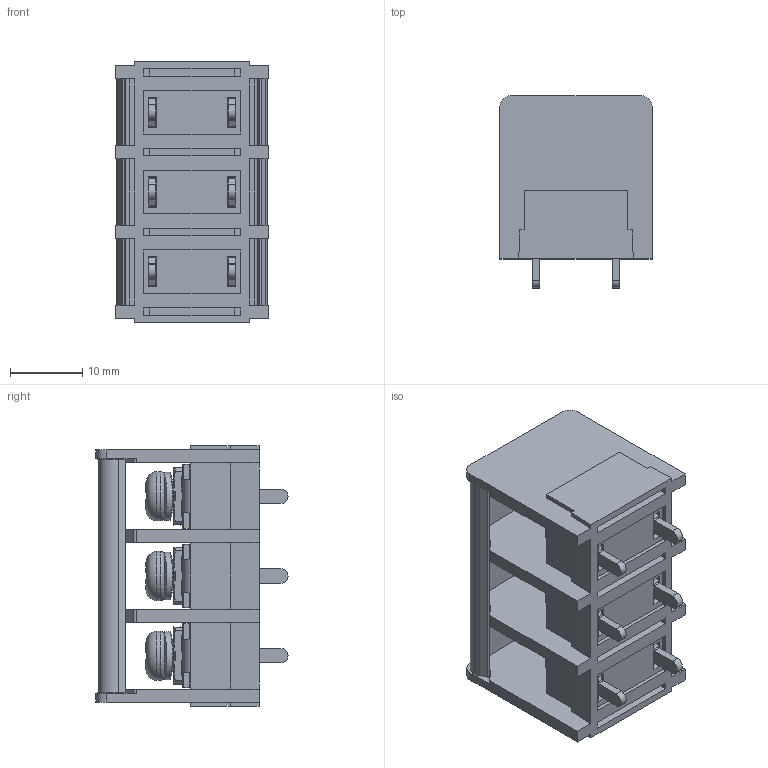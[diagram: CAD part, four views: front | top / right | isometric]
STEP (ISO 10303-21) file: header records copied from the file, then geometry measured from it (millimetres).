
FILE_DESCRIPTION((''),'2;1');
FILE_NAME('3PIN','2021-05-27T',('hanke'),(''),'CREO PARAMETRIC BY PTC INC, 2016260','CREO PARAMETRIC BY PTC INC, 2016260','');
FILE_SCHEMA(('CONFIG_CONTROL_DESIGN'));
Products named in the file (1): 3PIN
Bounding box: 21 x 26.5 x 36 mm (x, y, z)
Volume: 7644.4 mm3; surface area: 11152.9 mm2
Topology: 1 solids, 1 shells, 1654 faces, 4975 edges, 3213 vertices
Faces by surface type: plane 933, cylinder 355, bspline 162, torus 156, cone 48
Entity records: 75535 total; most frequent: CARTESIAN_POINT 31883, ORIENTED_EDGE 9938, DIRECTION 8308, EDGE_CURVE 4969, VERTEX_POINT 3213, VECTOR 2910, LINE 2910, AXIS2_PLACEMENT_3D 2699
